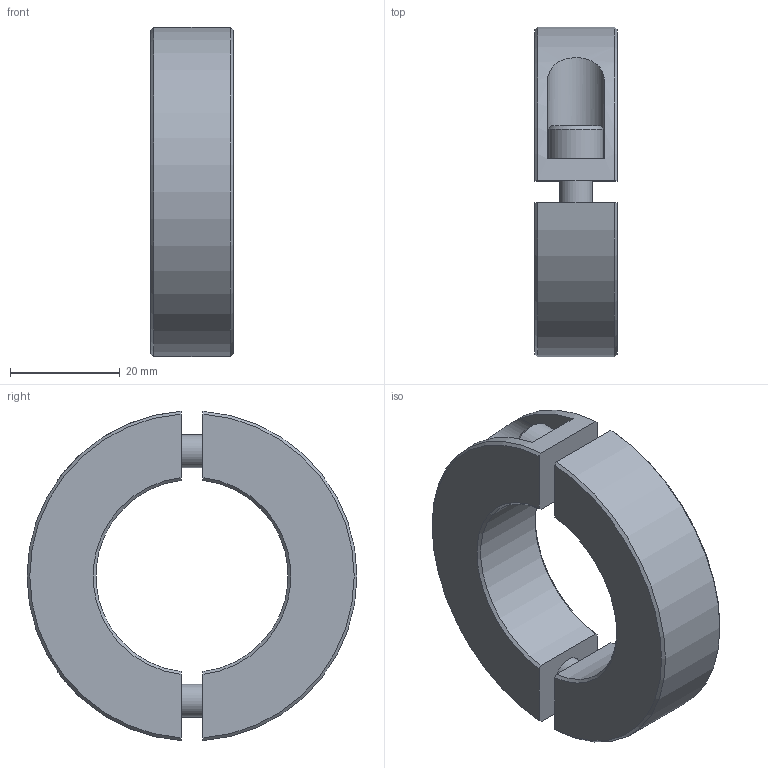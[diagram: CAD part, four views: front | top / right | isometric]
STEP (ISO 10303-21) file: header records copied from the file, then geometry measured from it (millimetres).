
FILE_DESCRIPTION(/* description */ ('STEP AP214'),/* implementation_level */ '2;1');
FILE_NAME(/* name */ 'Split Shaft Collar_ Aluminum GN 707.2-60-B35-AL',/* time_stamp */ '2024-06-10T15:27:06+02:00',/* author */ ('License CC BY-ND 4.0'),/* organization */ ('CADENAS'),/* preprocessor_version */ 'ST-DEVELOPER v19.3',/* originating_system */ 'PARTsolutions',/* authorisation */ ' ');
FILE_SCHEMA (('AUTOMOTIVE_DESIGN {1 0 10303 214 3 1 1}'));
Length unit declared in the file: millimetre
Products named in the file (1): Split Shaft Collar, Aluminum GN 707.2-60-B35-AL
Bounding box: 15 x 60 x 59.87 mm (x, y, z)
Volume: 24618.9 mm3; surface area: 9988.8 mm2
Topology: 1 solids, 3 shells, 74 faces, 172 edges, 110 vertices
Faces by surface type: plane 44, cone 16, cylinder 14
Full cylindrical faces by diameter (mm): 4.917 x2, 6 x2, 6.3 x2, 10 x2
Entity records: 2518 total; most frequent: CARTESIAN_POINT 393, DIRECTION 332, ORIENTED_EDGE 292, EDGE_CURVE 146, AXIS2_PLACEMENT_3D 129, VERTEX_POINT 104, FACE_BOUND 102, EDGE_LOOP 98
